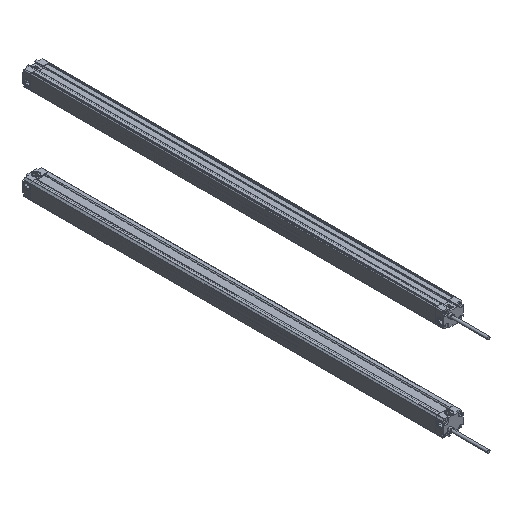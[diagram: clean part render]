
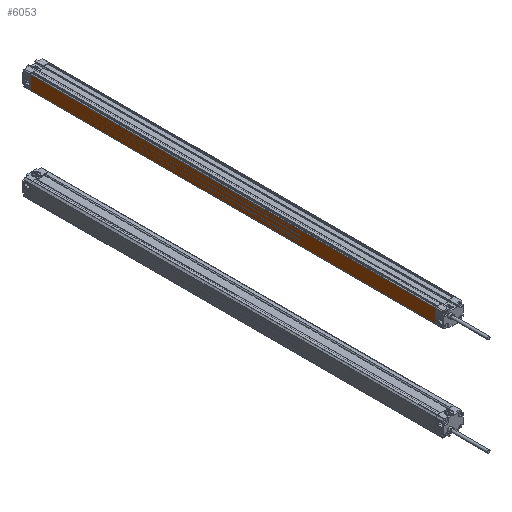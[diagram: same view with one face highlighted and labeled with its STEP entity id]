
A CAD part, isometric view. The second image highlights one B-rep face of the part: STEP entity #6053.
In plain terms, the highlighted planar face has unit normal (-1, 0, 0) as drawn and (1, 0, 0) by its records, which use the part's own axes.
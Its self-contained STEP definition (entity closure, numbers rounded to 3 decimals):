
#320 = VERTEX_POINT ( 'NONE', #7552 ) ;
#385 = CARTESIAN_POINT ( 'NONE',  ( 12.5, -520., 8.293 ) ) ;
#405 = DIRECTION ( 'NONE',  ( 0., 1., 0. ) ) ;
#528 = DIRECTION ( 'NONE',  ( 0., 0., -1. ) ) ;
#797 = AXIS2_PLACEMENT_3D ( 'NONE', #8076, #5633, #528 ) ;
#1003 = CARTESIAN_POINT ( 'NONE',  ( 12.5, 0., 8.293 ) ) ;
#1152 = CARTESIAN_POINT ( 'NONE',  ( 12.5, -520., 8.293 ) ) ;
#1336 = EDGE_LOOP ( 'NONE', ( #10256, #6955, #4018, #3576 ) ) ;
#1491 = CARTESIAN_POINT ( 'NONE',  ( 12.5, 0., 8.293 ) ) ;
#3576 = ORIENTED_EDGE ( 'NONE', *, *, #8166, .T. ) ;
#3578 = VERTEX_POINT ( 'NONE', #1491 ) ;
#3635 = DIRECTION ( 'NONE',  ( 0., 0., -1. ) ) ;
#4018 = ORIENTED_EDGE ( 'NONE', *, *, #8868, .T. ) ;
#4117 = LINE ( 'NONE', #1152, #5315 ) ;
#4250 = CARTESIAN_POINT ( 'NONE',  ( 12.5, 0., -9.2 ) ) ;
#5058 = VECTOR ( 'NONE', #8664, 1000. ) ;
#5102 = EDGE_CURVE ( 'NONE', #320, #3578, #4117, .T. ) ;
#5315 = VECTOR ( 'NONE', #405, 1000. ) ;
#5478 = VECTOR ( 'NONE', #10439, 1000. ) ;
#5633 = DIRECTION ( 'NONE',  ( 1., 0., 0. ) ) ;
#6053 = ADVANCED_FACE ( 'NONE', ( #9627 ), #7267, .T. ) ;
#6215 = VERTEX_POINT ( 'NONE', #4250 ) ;
#6286 = LINE ( 'NONE', #10476, #5478 ) ;
#6878 = VERTEX_POINT ( 'NONE', #9773 ) ;
#6931 = LINE ( 'NONE', #385, #5058 ) ;
#6955 = ORIENTED_EDGE ( 'NONE', *, *, #5102, .F. ) ;
#7267 = PLANE ( 'NONE',  #797 ) ;
#7552 = CARTESIAN_POINT ( 'NONE',  ( 12.5, -520., 8.293 ) ) ;
#7557 = VECTOR ( 'NONE', #3635, 1000. ) ;
#8076 = CARTESIAN_POINT ( 'NONE',  ( 12.5, -520., 8.293 ) ) ;
#8166 = EDGE_CURVE ( 'NONE', #6878, #6215, #6286, .T. ) ;
#8617 = LINE ( 'NONE', #1003, #7557 ) ;
#8664 = DIRECTION ( 'NONE',  ( 0., 0., -1. ) ) ;
#8868 = EDGE_CURVE ( 'NONE', #320, #6878, #6931, .T. ) ;
#9193 = EDGE_CURVE ( 'NONE', #3578, #6215, #8617, .T. ) ;
#9627 = FACE_OUTER_BOUND ( 'NONE', #1336, .T. ) ;
#9773 = CARTESIAN_POINT ( 'NONE',  ( 12.5, -520., -9.2 ) ) ;
#10256 = ORIENTED_EDGE ( 'NONE', *, *, #9193, .F. ) ;
#10439 = DIRECTION ( 'NONE',  ( 0., 1., 0. ) ) ;
#10476 = CARTESIAN_POINT ( 'NONE',  ( 12.5, -520., -9.2 ) ) ;
